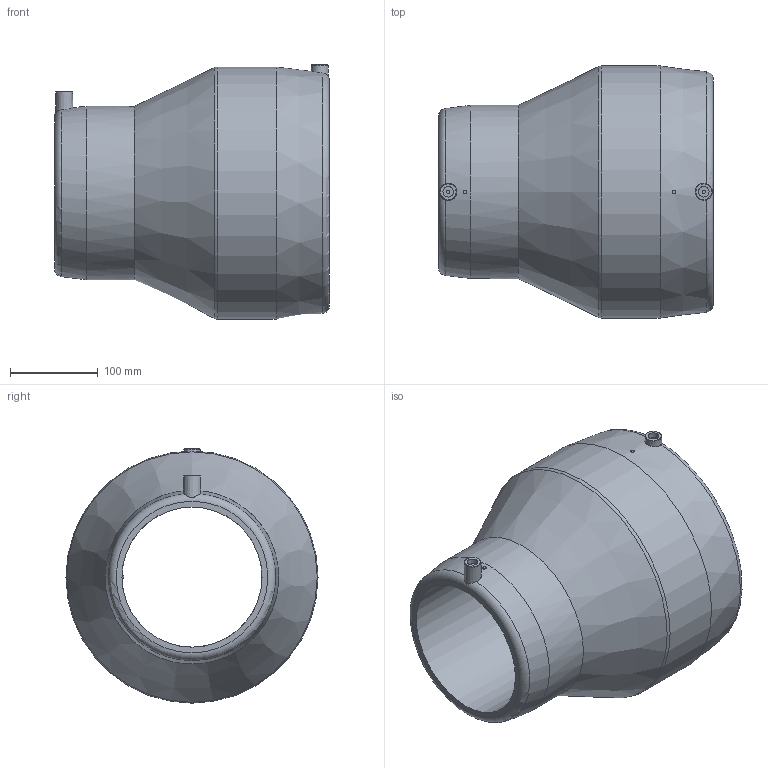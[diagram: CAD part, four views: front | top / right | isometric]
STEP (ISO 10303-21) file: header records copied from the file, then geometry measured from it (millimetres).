
FILE_DESCRIPTION(/* description */ ('Unknown'),/* implementation_level */ '2;1');
FILE_NAME(/* name */ 'REP225160C',/* time_stamp */ '2021-05-25T17:24:16+02:00',/* author */ ('Unknown'),/* organization */ ('Unknown'),/* preprocessor_version */ 'ST-DEVELOPER v16.7',/* originating_system */ 'Solid Edge',/* authorisation */ 'Unknown');
FILE_SCHEMA (('AUTOMOTIVE_DESIGN {1 0 10303 214 3 1 1}'));
Length unit declared in the file: millimetre
Products named in the file (1): REP225160C
Bounding box: 314 x 288 x 290.5 mm (x, y, z)
Volume: 6086778.2 mm3; surface area: 469974.4 mm2
Topology: 1 solids, 1 shells, 36 faces, 77 edges, 48 vertices
Faces by surface type: plane 15, cylinder 10, cone 6, torus 5
Full cylindrical faces by diameter (mm): 4 x4, 12 x2, 160 x1, 198 x1, 225 x1, 288 x1
Entity records: 853 total; most frequent: CARTESIAN_POINT 184, DIRECTION 142, ORIENTED_EDGE 90, AXIS2_PLACEMENT_3D 66, EDGE_LOOP 64, FACE_BOUND 64, EDGE_CURVE 45, VERTEX_POINT 37
